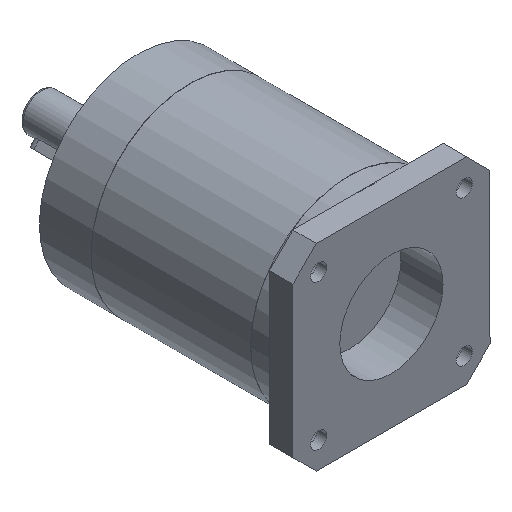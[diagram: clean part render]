
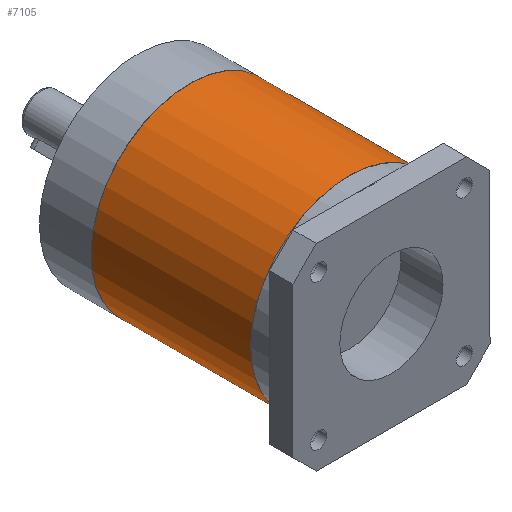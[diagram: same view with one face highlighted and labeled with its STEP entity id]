
A CAD part, isometric view. The second image highlights one B-rep face of the part: STEP entity #7105.
In plain terms, the highlighted cylindrical face has radius 21 mm (diameter 42 mm), a partial arc.
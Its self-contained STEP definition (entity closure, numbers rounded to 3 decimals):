
#706 = FACE_OUTER_BOUND ( 'NONE', #17476, .T. ) ;
#986 = LINE ( 'NONE', #4322, #9546 ) ;
#1326 = ORIENTED_EDGE ( 'NONE', *, *, #12582, .F. ) ;
#2396 = VERTEX_POINT ( 'NONE', #16000 ) ;
#3332 = VECTOR ( 'NONE', #14763, 1000. ) ;
#4322 = CARTESIAN_POINT ( 'NONE',  ( 21., 0., 34. ) ) ;
#4337 = CARTESIAN_POINT ( 'NONE',  ( 0., 0., 34. ) ) ;
#6135 = CARTESIAN_POINT ( 'NONE',  ( 21., 0., 34. ) ) ;
#6210 = LINE ( 'NONE', #6319, #3332 ) ;
#6319 = CARTESIAN_POINT ( 'NONE',  ( -21., 0., 34. ) ) ;
#7105 = ADVANCED_FACE ( 'NONE', ( #706 ), #15574, .T. ) ;
#7204 = VERTEX_POINT ( 'NONE', #19530 ) ;
#7245 = CARTESIAN_POINT ( 'NONE',  ( 0., 0., 34. ) ) ;
#7617 = EDGE_CURVE ( 'NONE', #9055, #12510, #19253, .T. ) ;
#8502 = CIRCLE ( 'NONE', #12272, 21. ) ;
#9055 = VERTEX_POINT ( 'NONE', #11010 ) ;
#9546 = VECTOR ( 'NONE', #17347, 1000. ) ;
#9997 = DIRECTION ( 'NONE',  ( 1., 0., 0. ) ) ;
#10399 = ORIENTED_EDGE ( 'NONE', *, *, #7617, .F. ) ;
#10491 = EDGE_CURVE ( 'NONE', #9055, #2396, #6210, .T. ) ;
#11010 = CARTESIAN_POINT ( 'NONE',  ( -21., 0., 34. ) ) ;
#11579 = DIRECTION ( 'NONE',  ( 0., 0., 1. ) ) ;
#12272 = AXIS2_PLACEMENT_3D ( 'NONE', #13407, #11579, #9997 ) ;
#12510 = VERTEX_POINT ( 'NONE', #6135 ) ;
#12582 = EDGE_CURVE ( 'NONE', #12510, #7204, #986, .T. ) ;
#13132 = ORIENTED_EDGE ( 'NONE', *, *, #14043, .T. ) ;
#13407 = CARTESIAN_POINT ( 'NONE',  ( 0., 0., 0. ) ) ;
#13780 = DIRECTION ( 'NONE',  ( -1., 0., 0. ) ) ;
#13802 = AXIS2_PLACEMENT_3D ( 'NONE', #7245, #13991, #13780 ) ;
#13991 = DIRECTION ( 'NONE',  ( 0., 0., -1. ) ) ;
#14043 = EDGE_CURVE ( 'NONE', #2396, #7204, #8502, .T. ) ;
#14763 = DIRECTION ( 'NONE',  ( 0., 0., -1. ) ) ;
#15169 = ORIENTED_EDGE ( 'NONE', *, *, #10491, .T. ) ;
#15344 = DIRECTION ( 'NONE',  ( 1., 0., 0. ) ) ;
#15574 = CYLINDRICAL_SURFACE ( 'NONE', #13802, 21. ) ;
#16000 = CARTESIAN_POINT ( 'NONE',  ( -21., 0., 0. ) ) ;
#17347 = DIRECTION ( 'NONE',  ( 0., 0., -1. ) ) ;
#17476 = EDGE_LOOP ( 'NONE', ( #1326, #10399, #15169, #13132 ) ) ;
#19253 = CIRCLE ( 'NONE', #20612, 21. ) ;
#19530 = CARTESIAN_POINT ( 'NONE',  ( 21., 0., 0. ) ) ;
#20369 = DIRECTION ( 'NONE',  ( 0., 0., 1. ) ) ;
#20612 = AXIS2_PLACEMENT_3D ( 'NONE', #4337, #20369, #15344 ) ;
